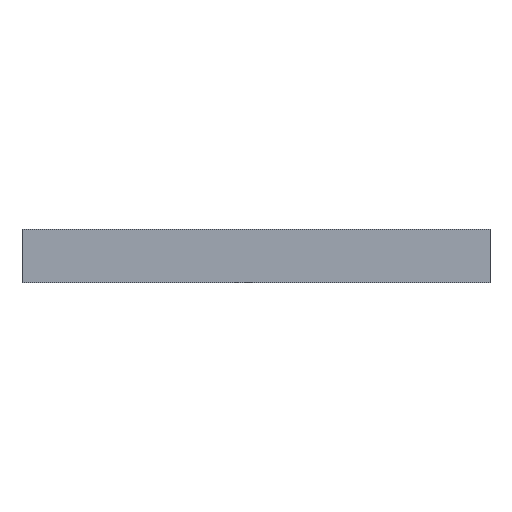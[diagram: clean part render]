
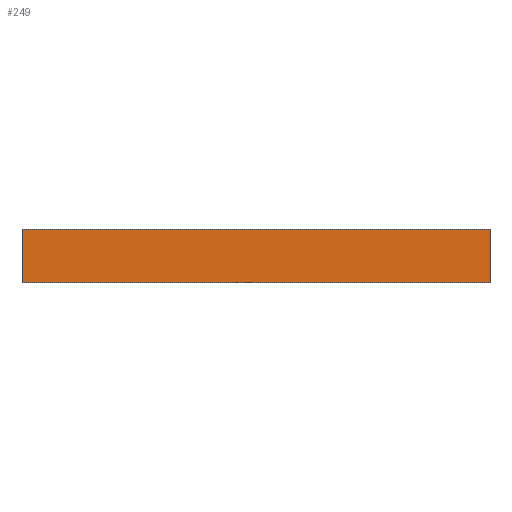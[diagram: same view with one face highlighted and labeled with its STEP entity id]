
A CAD part, front view. The second image highlights one B-rep face of the part: STEP entity #249.
In plain terms, the highlighted planar face has unit normal (0, -1, 0).
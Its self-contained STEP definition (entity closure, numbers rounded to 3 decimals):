
#21 = EDGE_CURVE('',#22,#24,#26,.T.);
#22 = VERTEX_POINT('',#23);
#23 = CARTESIAN_POINT('',(-72.225,-52.2,0.));
#24 = VERTEX_POINT('',#25);
#25 = CARTESIAN_POINT('',(-72.225,-52.2,16.6));
#26 = SURFACE_CURVE('',#27,(#31,#43),.PCURVE_S1.);
#27 = LINE('',#28,#29);
#28 = CARTESIAN_POINT('',(-72.225,-52.2,0.));
#29 = VECTOR('',#30,1.);
#30 = DIRECTION('',(0.,0.,1.));
#31 = PCURVE('',#32,#37);
#32 = PLANE('',#33);
#33 = AXIS2_PLACEMENT_3D('',#34,#35,#36);
#34 = CARTESIAN_POINT('',(-72.225,-52.2,14.2));
#35 = DIRECTION('',(1.,0.,-0.));
#36 = DIRECTION('',(0.,0.,1.));
#37 = DEFINITIONAL_REPRESENTATION('',(#38),#42);
#38 = LINE('',#39,#40);
#39 = CARTESIAN_POINT('',(-14.2,0.));
#40 = VECTOR('',#41,1.);
#41 = DIRECTION('',(1.,0.));
#42 = ( GEOMETRIC_REPRESENTATION_CONTEXT(2) 
PARAMETRIC_REPRESENTATION_CONTEXT() REPRESENTATION_CONTEXT('2D SPACE',''
  ) );
#43 = PCURVE('',#44,#49);
#44 = PLANE('',#45);
#45 = AXIS2_PLACEMENT_3D('',#46,#47,#48);
#46 = CARTESIAN_POINT('',(-72.225,-52.2,14.2));
#47 = DIRECTION('',(-0.,1.,0.));
#48 = DIRECTION('',(0.,0.,1.));
#49 = DEFINITIONAL_REPRESENTATION('',(#50),#54);
#50 = LINE('',#51,#52);
#51 = CARTESIAN_POINT('',(-14.2,0.));
#52 = VECTOR('',#53,1.);
#53 = DIRECTION('',(1.,0.));
#54 = ( GEOMETRIC_REPRESENTATION_CONTEXT(2) 
PARAMETRIC_REPRESENTATION_CONTEXT() REPRESENTATION_CONTEXT('2D SPACE',''
  ) );
#72 = PLANE('',#73);
#73 = AXIS2_PLACEMENT_3D('',#74,#75,#76);
#74 = CARTESIAN_POINT('',(-72.225,-52.2,0.));
#75 = DIRECTION('',(0.,0.,1.));
#76 = DIRECTION('',(1.,0.,-0.));
#238 = PLANE('',#239);
#239 = AXIS2_PLACEMENT_3D('',#240,#241,#242);
#240 = CARTESIAN_POINT('',(-72.225,-52.2,16.6));
#241 = DIRECTION('',(0.,0.,1.));
#242 = DIRECTION('',(1.,0.,-0.));
#249 = ADVANCED_FACE('',(#250),#44,.F.);
#250 = FACE_BOUND('',#251,.F.);
#251 = EDGE_LOOP('',(#252,#282,#303,#304));
#252 = ORIENTED_EDGE('',*,*,#253,.F.);
#253 = EDGE_CURVE('',#254,#256,#258,.T.);
#254 = VERTEX_POINT('',#255);
#255 = CARTESIAN_POINT('',(72.225,-52.2,0.));
#256 = VERTEX_POINT('',#257);
#257 = CARTESIAN_POINT('',(72.225,-52.2,16.6));
#258 = SURFACE_CURVE('',#259,(#263,#270),.PCURVE_S1.);
#259 = LINE('',#260,#261);
#260 = CARTESIAN_POINT('',(72.225,-52.2,0.));
#261 = VECTOR('',#262,1.);
#262 = DIRECTION('',(0.,0.,1.));
#263 = PCURVE('',#44,#264);
#264 = DEFINITIONAL_REPRESENTATION('',(#265),#269);
#265 = LINE('',#266,#267);
#266 = CARTESIAN_POINT('',(-14.2,144.45));
#267 = VECTOR('',#268,1.);
#268 = DIRECTION('',(1.,0.));
#269 = ( GEOMETRIC_REPRESENTATION_CONTEXT(2) 
PARAMETRIC_REPRESENTATION_CONTEXT() REPRESENTATION_CONTEXT('2D SPACE',''
  ) );
#270 = PCURVE('',#271,#276);
#271 = PLANE('',#272);
#272 = AXIS2_PLACEMENT_3D('',#273,#274,#275);
#273 = CARTESIAN_POINT('',(72.225,-52.2,14.2));
#274 = DIRECTION('',(1.,0.,-0.));
#275 = DIRECTION('',(0.,0.,1.));
#276 = DEFINITIONAL_REPRESENTATION('',(#277),#281);
#277 = LINE('',#278,#279);
#278 = CARTESIAN_POINT('',(-14.2,0.));
#279 = VECTOR('',#280,1.);
#280 = DIRECTION('',(1.,0.));
#281 = ( GEOMETRIC_REPRESENTATION_CONTEXT(2) 
PARAMETRIC_REPRESENTATION_CONTEXT() REPRESENTATION_CONTEXT('2D SPACE',''
  ) );
#282 = ORIENTED_EDGE('',*,*,#283,.F.);
#283 = EDGE_CURVE('',#22,#254,#284,.T.);
#284 = SURFACE_CURVE('',#285,(#289,#296),.PCURVE_S1.);
#285 = LINE('',#286,#287);
#286 = CARTESIAN_POINT('',(-72.225,-52.2,0.));
#287 = VECTOR('',#288,1.);
#288 = DIRECTION('',(1.,0.,-0.));
#289 = PCURVE('',#44,#290);
#290 = DEFINITIONAL_REPRESENTATION('',(#291),#295);
#291 = LINE('',#292,#293);
#292 = CARTESIAN_POINT('',(-14.2,0.));
#293 = VECTOR('',#294,1.);
#294 = DIRECTION('',(0.,1.));
#295 = ( GEOMETRIC_REPRESENTATION_CONTEXT(2) 
PARAMETRIC_REPRESENTATION_CONTEXT() REPRESENTATION_CONTEXT('2D SPACE',''
  ) );
#296 = PCURVE('',#72,#297);
#297 = DEFINITIONAL_REPRESENTATION('',(#298),#302);
#298 = LINE('',#299,#300);
#299 = CARTESIAN_POINT('',(0.,0.));
#300 = VECTOR('',#301,1.);
#301 = DIRECTION('',(1.,0.));
#302 = ( GEOMETRIC_REPRESENTATION_CONTEXT(2) 
PARAMETRIC_REPRESENTATION_CONTEXT() REPRESENTATION_CONTEXT('2D SPACE',''
  ) );
#303 = ORIENTED_EDGE('',*,*,#21,.T.);
#304 = ORIENTED_EDGE('',*,*,#305,.T.);
#305 = EDGE_CURVE('',#24,#256,#306,.T.);
#306 = SURFACE_CURVE('',#307,(#311,#318),.PCURVE_S1.);
#307 = LINE('',#308,#309);
#308 = CARTESIAN_POINT('',(-72.225,-52.2,16.6));
#309 = VECTOR('',#310,1.);
#310 = DIRECTION('',(1.,0.,-0.));
#311 = PCURVE('',#44,#312);
#312 = DEFINITIONAL_REPRESENTATION('',(#313),#317);
#313 = LINE('',#314,#315);
#314 = CARTESIAN_POINT('',(2.4,0.));
#315 = VECTOR('',#316,1.);
#316 = DIRECTION('',(0.,1.));
#317 = ( GEOMETRIC_REPRESENTATION_CONTEXT(2) 
PARAMETRIC_REPRESENTATION_CONTEXT() REPRESENTATION_CONTEXT('2D SPACE',''
  ) );
#318 = PCURVE('',#238,#319);
#319 = DEFINITIONAL_REPRESENTATION('',(#320),#324);
#320 = LINE('',#321,#322);
#321 = CARTESIAN_POINT('',(0.,0.));
#322 = VECTOR('',#323,1.);
#323 = DIRECTION('',(1.,0.));
#324 = ( GEOMETRIC_REPRESENTATION_CONTEXT(2) 
PARAMETRIC_REPRESENTATION_CONTEXT() REPRESENTATION_CONTEXT('2D SPACE',''
  ) );
